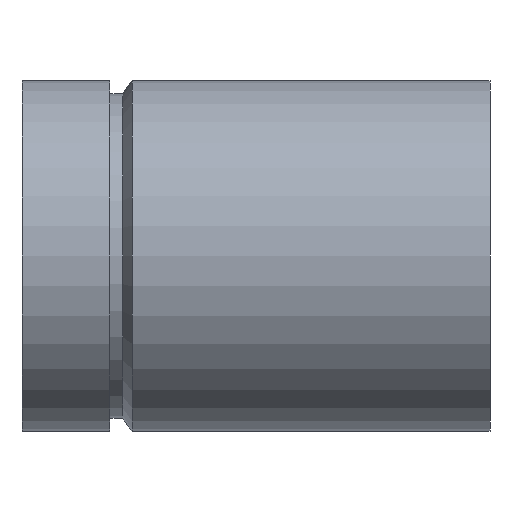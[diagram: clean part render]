
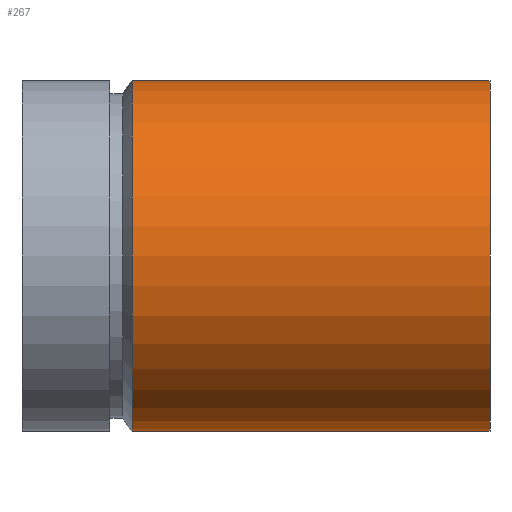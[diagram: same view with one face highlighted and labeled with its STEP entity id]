
A CAD part, front view. The second image highlights one B-rep face of the part: STEP entity #267.
In plain terms, the highlighted cylindrical face has radius 38.1 mm (diameter 76.2 mm), a full revolution.
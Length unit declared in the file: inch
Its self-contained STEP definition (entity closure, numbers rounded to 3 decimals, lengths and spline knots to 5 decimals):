
#59=FACE_OUTER_BOUND('',#72,.T.);
#72=EDGE_LOOP('',(#201,#202,#203,#204,#205,#206));
#86=LINE('',#485,#94);
#94=VECTOR('',#383,1.5);
#107=CIRCLE('',#307,1.5);
#108=CIRCLE('',#308,1.5);
#109=CIRCLE('',#310,1.5);
#110=CIRCLE('',#311,1.5);
#131=VERTEX_POINT('',#475);
#132=VERTEX_POINT('',#476);
#133=VERTEX_POINT('',#481);
#134=VERTEX_POINT('',#482);
#157=EDGE_CURVE('',#131,#132,#107,.T.);
#158=EDGE_CURVE('',#132,#131,#108,.T.);
#160=EDGE_CURVE('',#133,#134,#109,.T.);
#161=EDGE_CURVE('',#134,#133,#110,.T.);
#162=EDGE_CURVE('',#134,#132,#86,.T.);
#201=ORIENTED_EDGE('',*,*,#160,.F.);
#202=ORIENTED_EDGE('',*,*,#161,.F.);
#203=ORIENTED_EDGE('',*,*,#162,.T.);
#204=ORIENTED_EDGE('',*,*,#158,.T.);
#205=ORIENTED_EDGE('',*,*,#157,.T.);
#206=ORIENTED_EDGE('',*,*,#162,.F.);
#245=CYLINDRICAL_SURFACE('',#309,1.5);
#267=ADVANCED_FACE('',(#59),#245,.T.);
#307=AXIS2_PLACEMENT_3D('',#477,#372,#373);
#308=AXIS2_PLACEMENT_3D('',#478,#374,#375);
#309=AXIS2_PLACEMENT_3D('',#480,#377,#378);
#310=AXIS2_PLACEMENT_3D('',#483,#379,#380);
#311=AXIS2_PLACEMENT_3D('',#484,#381,#382);
#372=DIRECTION('center_axis',(1.,0.,0.));
#373=DIRECTION('ref_axis',(0.,1.,0.));
#374=DIRECTION('center_axis',(1.,0.,0.));
#375=DIRECTION('ref_axis',(0.,1.,0.));
#377=DIRECTION('center_axis',(1.,0.,0.));
#378=DIRECTION('ref_axis',(0.,1.,0.));
#379=DIRECTION('center_axis',(1.,0.,0.));
#380=DIRECTION('ref_axis',(0.,1.,0.));
#381=DIRECTION('center_axis',(1.,0.,0.));
#382=DIRECTION('ref_axis',(0.,1.,0.));
#383=DIRECTION('',(-1.,0.,0.));
#475=CARTESIAN_POINT('',(0.94052,1.5,0.));
#476=CARTESIAN_POINT('',(0.94052,-1.5,0.));
#477=CARTESIAN_POINT('Origin',(0.94052,0.,0.));
#478=CARTESIAN_POINT('Origin',(0.94052,0.,0.));
#480=CARTESIAN_POINT('Origin',(2.47026,0.,0.));
#481=CARTESIAN_POINT('',(4.,1.5,0.));
#482=CARTESIAN_POINT('',(4.,-1.5,0.));
#483=CARTESIAN_POINT('Origin',(4.,0.,0.));
#484=CARTESIAN_POINT('Origin',(4.,0.,0.));
#485=CARTESIAN_POINT('',(2.47026,-1.5,0.));
